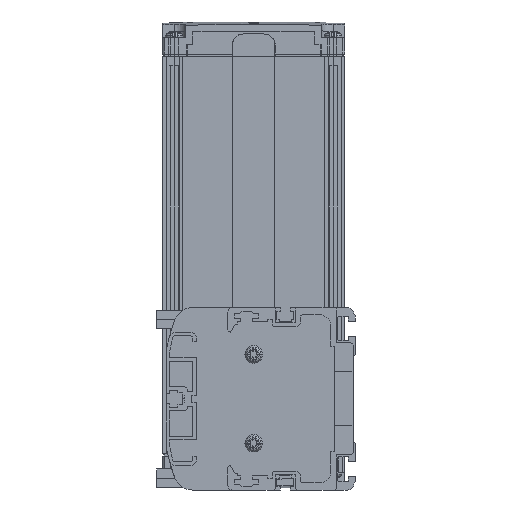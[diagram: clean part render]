
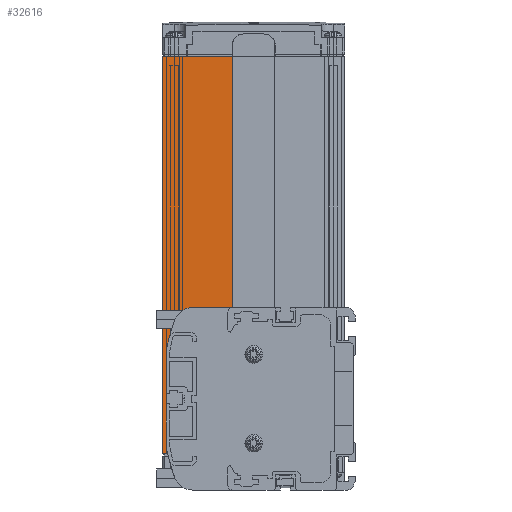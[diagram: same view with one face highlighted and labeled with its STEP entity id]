
A CAD part, left-side view. The second image highlights one B-rep face of the part: STEP entity #32616.
In plain terms, the highlighted planar face has unit normal (-1, 0, 0).
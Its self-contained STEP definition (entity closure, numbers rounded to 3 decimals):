
#5334=CARTESIAN_POINT('',(3.,79.,19.823));
#5335=DIRECTION('',(1.,0.,0.));
#5336=DIRECTION('',(0.,1.,0.));
#5337=AXIS2_PLACEMENT_3D('',#5334,#5335,#5336);
#5347=DIRECTION('',(0.,0.,1.));
#5348=VECTOR('',#5347,39.645);
#5349=CARTESIAN_POINT('',(3.,81.,-19.823));
#5350=LINE('',#5349,#5348);
#5387=CARTESIAN_POINT('',(3.,79.,-19.823));
#5388=DIRECTION('',(-1.,0.,0.));
#5389=DIRECTION('',(0.,1.,0.));
#5390=AXIS2_PLACEMENT_3D('',#5387,#5388,#5389);
#5401=CARTESIAN_POINT('',(3.,2.235,-6.));
#5402=DIRECTION('',(1.,0.,0.));
#5403=DIRECTION('',(0.,0.976,-0.219));
#5404=AXIS2_PLACEMENT_3D('',#5401,#5402,#5403);
#5736=CARTESIAN_POINT('',(3.,2.235,6.));
#5737=DIRECTION('',(1.,0.,0.));
#5738=DIRECTION('',(0.,0.984,0.177));
#5739=AXIS2_PLACEMENT_3D('',#5736,#5737,#5738);
#5749=DIRECTION('',(0.,-1.,0.));
#5750=VECTOR('',#5749,2.203);
#5751=CARTESIAN_POINT('',(3.,82.5,-23.5));
#5752=LINE('',#5751,#5750);
#5753=DIRECTION('',(0.,0.,-1.));
#5754=VECTOR('',#5753,170.);
#5755=CARTESIAN_POINT('',(3.,82.5,146.5));
#5756=LINE('',#5755,#5754);
#5757=DIRECTION('',(0.,1.,0.));
#5758=VECTOR('',#5757,29.9);
#5759=CARTESIAN_POINT('',(3.,52.6,146.5));
#5760=LINE('',#5759,#5758);
#5761=DIRECTION('',(0.,-1.,0.));
#5762=VECTOR('',#5761,17.155);
#5763=CARTESIAN_POINT('',(3.,69.755,39.));
#5764=LINE('',#5763,#5762);
#15610=DIRECTION('',(0.,0.,1.));
#15611=VECTOR('',#15610,107.5);
#15612=CARTESIAN_POINT('',(3.,52.6,39.));
#15613=LINE('',#15612,#15611);
#15646=CARTESIAN_POINT('',(3.,69.755,31.));
#15647=DIRECTION('',(-1.,0.,0.));
#15648=DIRECTION('',(0.,0.,1.));
#15649=AXIS2_PLACEMENT_3D('',#15646,#15647,#15648);
#19850=CARTESIAN_POINT('',(3.,82.5,-23.5));
#19852=VERTEX_POINT('',#19850);
#19947=CARTESIAN_POINT('',(3.,52.6,146.5));
#19948=VERTEX_POINT('',#19947);
#19949=CARTESIAN_POINT('',(3.,82.5,146.5));
#19950=VERTEX_POINT('',#19949);
#24440=CARTESIAN_POINT('',(3.,69.755,39.));
#24441=CARTESIAN_POINT('',(3.,52.6,39.));
#24442=VERTEX_POINT('',#24440);
#24443=VERTEX_POINT('',#24441);
#24444=CARTESIAN_POINT('',(3.,80.297,-23.5));
#24446=VERTEX_POINT('',#24444);
#24468=CARTESIAN_POINT('',(3.,81.,-19.823));
#24469=CARTESIAN_POINT('',(3.,80.968,-20.177));
#24470=VERTEX_POINT('',#24468);
#24471=VERTEX_POINT('',#24469);
#24484=CARTESIAN_POINT('',(3.,77.257,33.778));
#24485=VERTEX_POINT('',#24484);
#24486=CARTESIAN_POINT('',(3.,80.968,20.177));
#24487=VERTEX_POINT('',#24486);
#24488=CARTESIAN_POINT('',(3.,81.,19.823));
#24489=VERTEX_POINT('',#24488);
#32592=CARTESIAN_POINT('',(3.,67.55,61.5));
#32593=DIRECTION('',(1.,0.,0.));
#32594=DIRECTION('',(0.,-1.,0.));
#32595=AXIS2_PLACEMENT_3D('',#32592,#32593,#32594);
#32596=PLANE('',#32595);
#32598=ORIENTED_EDGE('',*,*,#32597,.F.);
#32600=ORIENTED_EDGE('',*,*,#32599,.T.);
#32601=ORIENTED_EDGE('',*,*,#32579,.F.);
#32602=ORIENTED_EDGE('',*,*,#32007,.F.);
#32603=ORIENTED_EDGE('',*,*,#32022,.F.);
#32604=ORIENTED_EDGE('',*,*,#32061,.T.);
#32605=ORIENTED_EDGE('',*,*,#32082,.F.);
#32607=ORIENTED_EDGE('',*,*,#32606,.F.);
#32609=ORIENTED_EDGE('',*,*,#32608,.F.);
#32611=ORIENTED_EDGE('',*,*,#32610,.F.);
#32613=ORIENTED_EDGE('',*,*,#32612,.F.);
#32614=EDGE_LOOP('',(#32598,#32600,#32601,#32602,#32603,#32604,#32605,#32607,
#32609,#32611,#32613));
#32615=FACE_OUTER_BOUND('',#32614,.F.);
#32616=ADVANCED_FACE('',(#32615),#32596,.F.);
#5338=CIRCLE('',#5337,2.);
#5391=CIRCLE('',#5390,2.);
#5405=CIRCLE('',#5404,80.);
#5740=CIRCLE('',#5739,80.);
#15650=CIRCLE('',#15649,8.);
#32007=EDGE_CURVE('',#24489,#24487,#5338,.T.);
#32022=EDGE_CURVE('',#24470,#24489,#5350,.T.);
#32061=EDGE_CURVE('',#24470,#24471,#5391,.T.);
#32082=EDGE_CURVE('',#24446,#24471,#5405,.T.);
#32579=EDGE_CURVE('',#24487,#24485,#5740,.T.);
#32597=EDGE_CURVE('',#24442,#24443,#5764,.T.);
#32599=EDGE_CURVE('',#24442,#24485,#15650,.T.);
#32606=EDGE_CURVE('',#19852,#24446,#5752,.T.);
#32608=EDGE_CURVE('',#19950,#19852,#5756,.T.);
#32610=EDGE_CURVE('',#19948,#19950,#5760,.T.);
#32612=EDGE_CURVE('',#24443,#19948,#15613,.T.);
